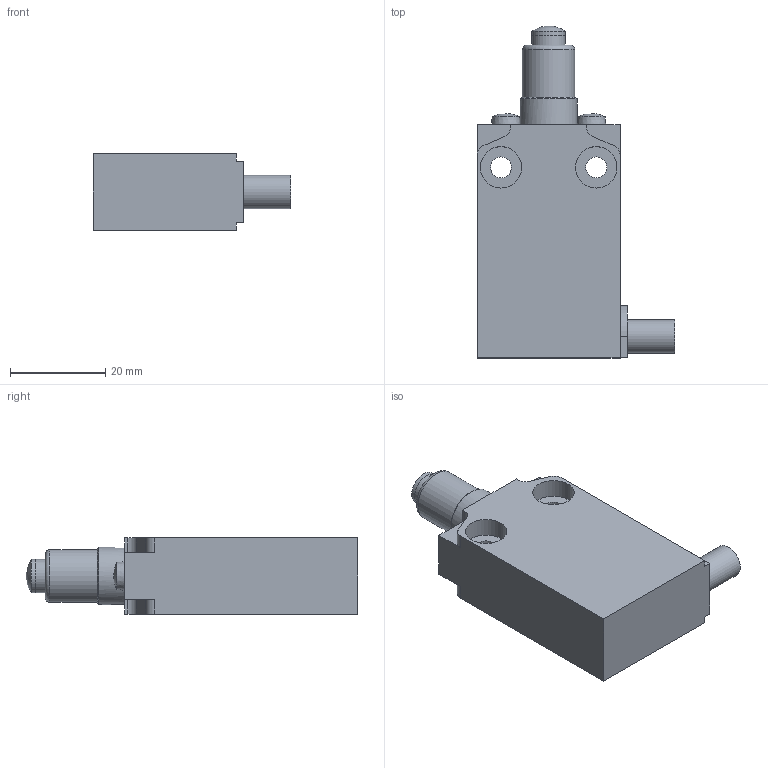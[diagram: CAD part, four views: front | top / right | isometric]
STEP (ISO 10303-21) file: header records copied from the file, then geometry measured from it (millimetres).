
FILE_DESCRIPTION(/* description */ (''),/* implementation_level */ '2;1');
FILE_NAME(/* name */ 'C:\Users\servizio.tecnico\Desktop\CADENAS\3D\EP1_STP\STP_EP1_G16U.stp',/* time_stamp */ '2017-08-31T16:24:53+02:00',/* author */ ('servizio.tecnico'),/* organization */ (''),/* preprocessor_version */ 'ST-DEVELOPER v16.1',/* originating_system */ 'Autodesk Inventor 2016',/* authorisation */ '');
FILE_SCHEMA (('AUTOMOTIVE_DESIGN { 1 0 10303 214 3 1 1 }'));
Length unit declared in the file: millimetre
Products named in the file (3): Product; EP1G16; BASE ASSI 
Assembly tree (2 placements, depth 3):
  BASE ASSI 
    EP1G16
      Product
Bounding box: 41.5 x 69.7 x 16 mm (x, y, z)
Volume: 24307.4 mm3; surface area: 8764.7 mm2
Topology: 3 solids, 3 shells, 95 faces, 231 edges, 151 vertices
Faces by surface type: plane 50, cylinder 32, cone 7, torus 3, sphere 3
Full cylindrical faces by diameter (mm): 4.4 x2, 5 x2, 7 x4, 7.1 x1, 8.7 x4, 11 x1, 12 x1
Entity records: 2693 total; most frequent: DIRECTION 472, CARTESIAN_POINT 450, ORIENTED_EDGE 390, EDGE_CURVE 195, AXIS2_PLACEMENT_3D 185, VERTEX_POINT 139, EDGE_LOOP 132, LINE 102
